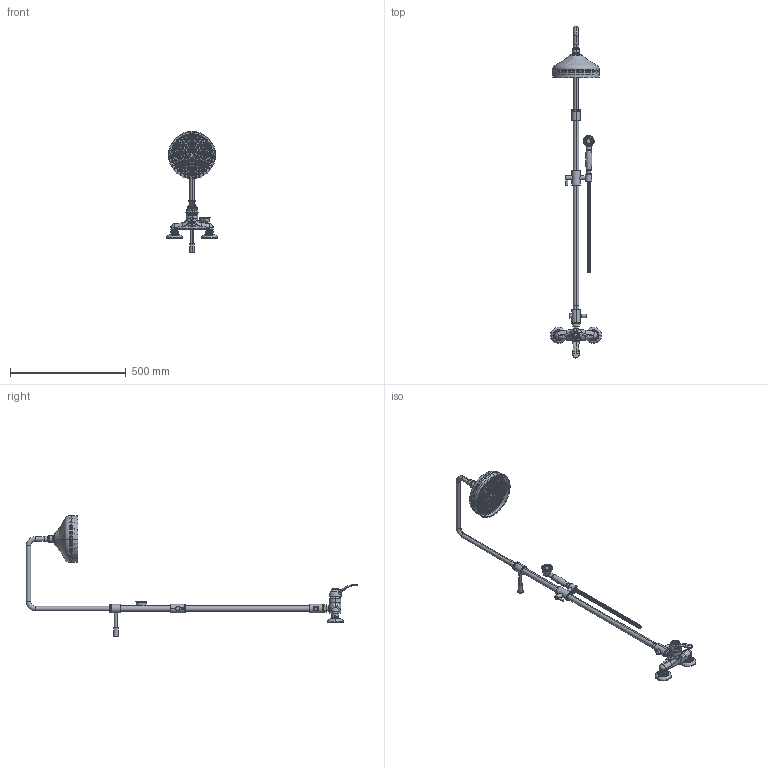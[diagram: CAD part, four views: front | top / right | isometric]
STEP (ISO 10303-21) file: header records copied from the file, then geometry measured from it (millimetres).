
FILE_DESCRIPTION((''),'2;1');
FILE_NAME('F3305_2_FILE_3D','2013-08-07T',('ivanv'),(''),'PRO/ENGINEER BY PARAMETRIC TECHNOLOGY CORPORATION, 2012130','PRO/ENGINEER BY PARAMETRIC TECHNOLOGY CORPORATION, 2012130','');
FILE_SCHEMA(('CONFIG_CONTROL_DESIGN'));
Products named in the file (1): F3305_2_FILE_3D
Bounding box: 220 x 1431.9 x 523.97 mm (x, y, z)
Volume: 2468801.6 mm3; surface area: 527465.9 mm2
Topology: 4 solids, 6 shells, 1791 faces, 3915 edges, 2360 vertices
Faces by surface type: cylinder 723, cone 426, plane 335, bspline 148, torus 137, sphere 22
Entity records: 111767 total; most frequent: CARTESIAN_POINT 72869, DIRECTION 8372, ORIENTED_EDGE 7822, EDGE_CURVE 3911, AXIS2_PLACEMENT_3D 3508, VERTEX_POINT 2360, EDGE_LOOP 2039, CIRCLE 1864
